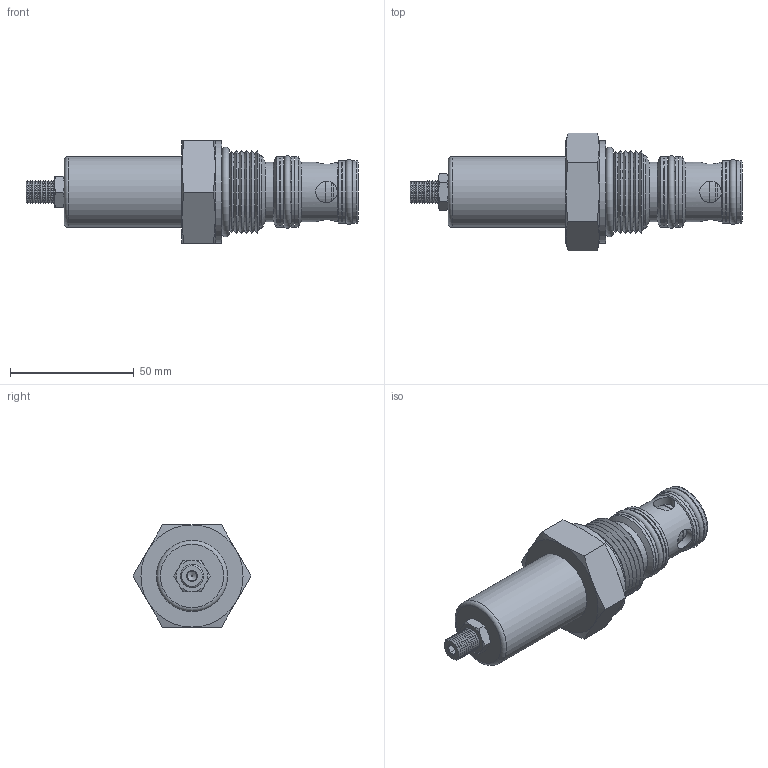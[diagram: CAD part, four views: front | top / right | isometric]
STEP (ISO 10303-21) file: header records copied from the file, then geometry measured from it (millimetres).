
FILE_DESCRIPTION((''),'2;1');
FILE_NAME('Q:\Delta CADD Insertion Codes\3D Solid models\Mechanical Valves\DWG\SLPCE00.stp','2012-12-06T13:20:39',('Dan'),(''),'Autodesk Inventor 2012','Autodesk Inventor 2012','');
FILE_SCHEMA(('AUTOMOTIVE_DESIGN { 1 0 10303 214 1 1 1 1 }'));
Length unit declared in the file: inch
Products named in the file (8): Assembly13; Part162; Part164; Part166; Part168; Part170; Part172; Part174
Assembly tree (7 placements, depth 2):
  Assembly13
    Part162
    Part164
    Part166
    Part168
    Part170
    Part172
    Part174
Bounding box: 134.11 x 47.66 x 41.27 mm (x, y, z)
Volume: 85433.9 mm3; surface area: 21618.3 mm2
Topology: 7 solids, 7 shells, 154 faces, 321 edges, 188 vertices
Faces by surface type: cone 70, plane 50, cylinder 29, torus 5
Full cylindrical faces by diameter (mm): 0.762 x1, 3.962 x1, 8.738 x4, 16.459 x2, 17.462 x2, 17.479 x1, 20.93 x2, 24.105 x4, 24.13 x1, 25.248 x1, 25.349 x2, 28.423 x2, 28.524 x2, 28.702 x1, 29.21 x1, 30.328 x1, 41.275 x1
Entity records: 4110 total; most frequent: CARTESIAN_POINT 1047, DIRECTION 627, ORIENTED_EDGE 494, AXIS2_PLACEMENT_3D 298, EDGE_CURVE 247, EDGE_LOOP 245, VERTEX_POINT 178, FACE_OUTER_BOUND 154
